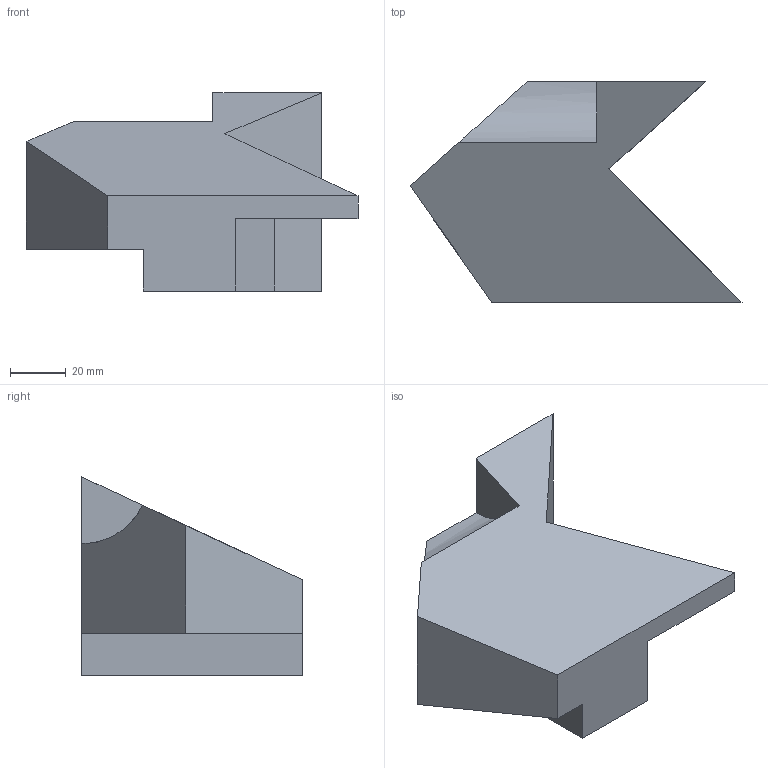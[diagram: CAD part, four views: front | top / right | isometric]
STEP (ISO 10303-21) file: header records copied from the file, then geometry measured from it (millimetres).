
FILE_DESCRIPTION(/* description */ (''),/* implementation_level */ '2;1');
FILE_NAME(/* name */ '750904R1007.stp',/* time_stamp */ '2025-09-20T10:36:54+09:00',/* author */ ('pc1-14'),/* organization */ (''),/* preprocessor_version */ 'ST-DEVELOPER v20',/* originating_system */ 'Autodesk Inventor 2025',/* authorisation */ '');
FILE_SCHEMA (('AUTOMOTIVE_DESIGN { 1 0 10303 214 3 1 1 }'));
Length unit declared in the file: millimetre
Products named in the file (1): 부품1
Bounding box: 119 x 79 x 71 mm (x, y, z)
Volume: 240787.9 mm3; surface area: 29507.7 mm2
Topology: 1 solids, 1 shells, 15 faces, 38 edges, 25 vertices
Faces by surface type: plane 14, cylinder 1
Entity records: 489 total; most frequent: CARTESIAN_POINT 79, ORIENTED_EDGE 76, DIRECTION 72, EDGE_CURVE 38, LINE 36, VECTOR 36, VERTEX_POINT 25, AXIS2_PLACEMENT_3D 18
